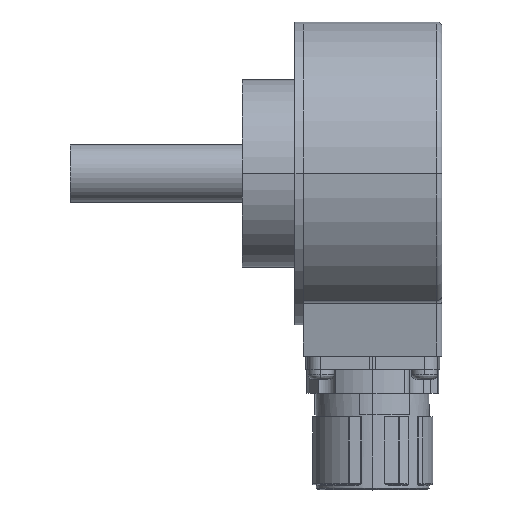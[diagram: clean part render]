
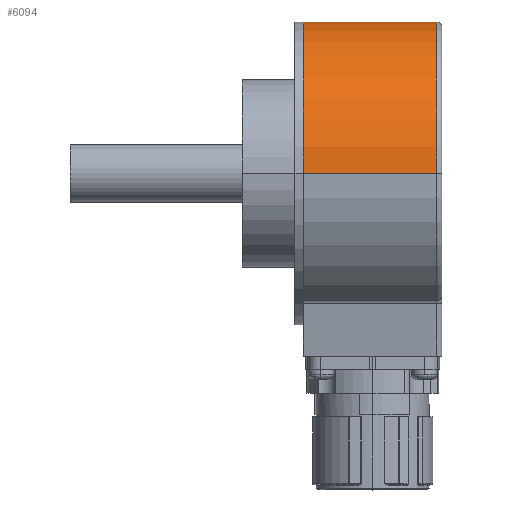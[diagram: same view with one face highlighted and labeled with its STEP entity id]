
A CAD part, top view. The second image highlights one B-rep face of the part: STEP entity #6094.
In plain terms, the highlighted cylindrical face has radius 29 mm (diameter 58 mm), a partial arc.
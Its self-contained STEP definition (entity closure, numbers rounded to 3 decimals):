
#373 = ORIENTED_EDGE ( 'NONE', *, *, #7681, .F. ) ;
#581 = AXIS2_PLACEMENT_3D ( 'NONE', #20961, #4476, #19617 ) ;
#628 = VERTEX_POINT ( 'NONE', #6984 ) ;
#955 = CIRCLE ( 'NONE', #13286, 29. ) ;
#1163 = VERTEX_POINT ( 'NONE', #23670 ) ;
#1516 = LINE ( 'NONE', #21375, #19809 ) ;
#3060 = AXIS2_PLACEMENT_3D ( 'NONE', #12153, #23117, #6266 ) ;
#3580 = EDGE_CURVE ( 'NONE', #5244, #1163, #8256, .T. ) ;
#4283 = ORIENTED_EDGE ( 'NONE', *, *, #11415, .T. ) ;
#4476 = DIRECTION ( 'NONE',  ( -1., 0., 0. ) ) ;
#4795 = DIRECTION ( 'NONE',  ( 0., 0., -1. ) ) ;
#4814 = FACE_OUTER_BOUND ( 'NONE', #21384, .T. ) ;
#5244 = VERTEX_POINT ( 'NONE', #7321 ) ;
#5598 = CARTESIAN_POINT ( 'NONE',  ( 8.068, 25.423, 29. ) ) ;
#6094 = ADVANCED_FACE ( 'NONE', ( #4814 ), #11676, .T. ) ;
#6266 = DIRECTION ( 'NONE',  ( 0., 0., -1. ) ) ;
#6984 = CARTESIAN_POINT ( 'NONE',  ( 8.068, 25.423, 29. ) ) ;
#7321 = CARTESIAN_POINT ( 'NONE',  ( 33.568, 25.423, 29. ) ) ;
#7681 = EDGE_CURVE ( 'NONE', #628, #21195, #955, .T. ) ;
#8256 = CIRCLE ( 'NONE', #581, 29. ) ;
#8844 = DIRECTION ( 'NONE',  ( -1., 0., 0. ) ) ;
#9201 = DIRECTION ( 'NONE',  ( -1., 0., 0. ) ) ;
#11415 = EDGE_CURVE ( 'NONE', #1163, #21195, #1516, .T. ) ;
#11658 = CARTESIAN_POINT ( 'NONE',  ( 8.068, 25.423, 0. ) ) ;
#11676 = CYLINDRICAL_SURFACE ( 'NONE', #3060, 29. ) ;
#12153 = CARTESIAN_POINT ( 'NONE',  ( 8.068, 25.423, 0. ) ) ;
#12758 = ORIENTED_EDGE ( 'NONE', *, *, #3580, .T. ) ;
#13088 = ORIENTED_EDGE ( 'NONE', *, *, #18212, .F. ) ;
#13286 = AXIS2_PLACEMENT_3D ( 'NONE', #11658, #17671, #4795 ) ;
#14971 = LINE ( 'NONE', #5598, #19178 ) ;
#16130 = CARTESIAN_POINT ( 'NONE',  ( 8.068, 25.423, -29. ) ) ;
#17671 = DIRECTION ( 'NONE',  ( -1., 0., 0. ) ) ;
#18212 = EDGE_CURVE ( 'NONE', #5244, #628, #14971, .T. ) ;
#19178 = VECTOR ( 'NONE', #9201, 1000. ) ;
#19617 = DIRECTION ( 'NONE',  ( 0., 0., -1. ) ) ;
#19809 = VECTOR ( 'NONE', #8844, 1000. ) ;
#20961 = CARTESIAN_POINT ( 'NONE',  ( 33.568, 25.423, 0. ) ) ;
#21195 = VERTEX_POINT ( 'NONE', #16130 ) ;
#21375 = CARTESIAN_POINT ( 'NONE',  ( 8.068, 25.423, -29. ) ) ;
#21384 = EDGE_LOOP ( 'NONE', ( #13088, #12758, #4283, #373 ) ) ;
#23117 = DIRECTION ( 'NONE',  ( -1., 0., 0. ) ) ;
#23670 = CARTESIAN_POINT ( 'NONE',  ( 33.568, 25.423, -29. ) ) ;
